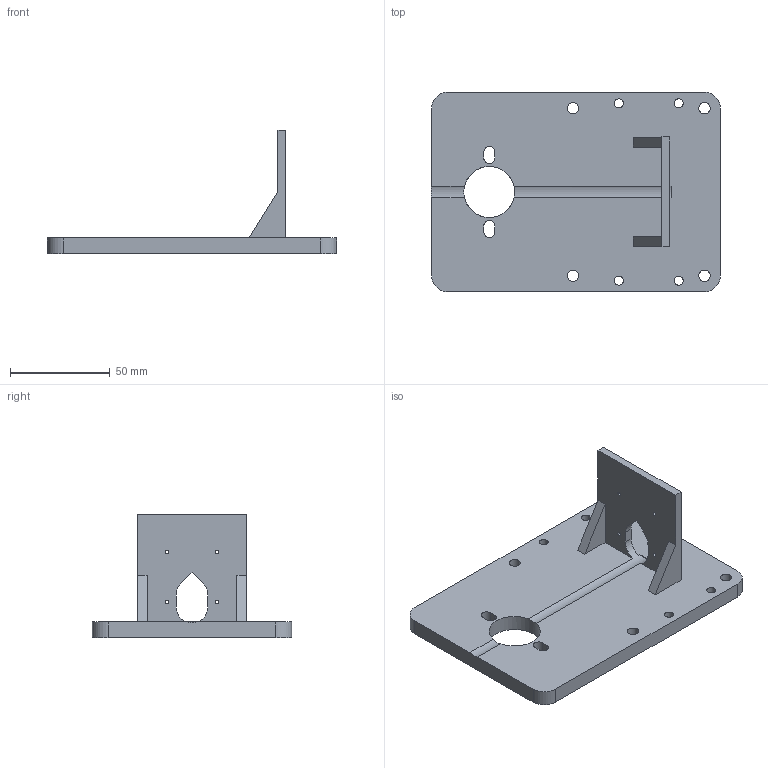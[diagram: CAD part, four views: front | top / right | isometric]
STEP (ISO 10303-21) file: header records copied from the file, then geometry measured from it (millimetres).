
FILE_DESCRIPTION(('FreeCAD Model'),'2;1');
FILE_NAME('Open CASCADE Shape Model','2026-11-17T14:01:24',('FreeCAD'),( 'FreeCAD'),'Open CASCADE STEP processor 7.8','FreeCAD','Unknown');
FILE_SCHEMA(('AUTOMOTIVE_DESIGN { 1 0 10303 214 1 1 1 1 }'));
Length unit declared in the file: millimetre
Products named in the file (1): Open CASCADE STEP translator 7.8 1
Bounding box: 145 x 100 x 62 mm (x, y, z)
Volume: 121580.2 mm3; surface area: 39883.2 mm2
Topology: 1 solids, 1 shells, 49 faces, 153 edges, 103 vertices
Faces by surface type: cylinder 25, plane 24
Full cylindrical faces by diameter (mm): 1.8 x4, 4.5 x4, 5.7 x4, 25.6 x1
Entity records: 1836 total; most frequent: CARTESIAN_POINT 350, ORIENTED_EDGE 306, DIRECTION 304, EDGE_CURVE 153, AXIS2_PLACEMENT_3D 105, VERTEX_POINT 103, LINE 94, VECTOR 94
